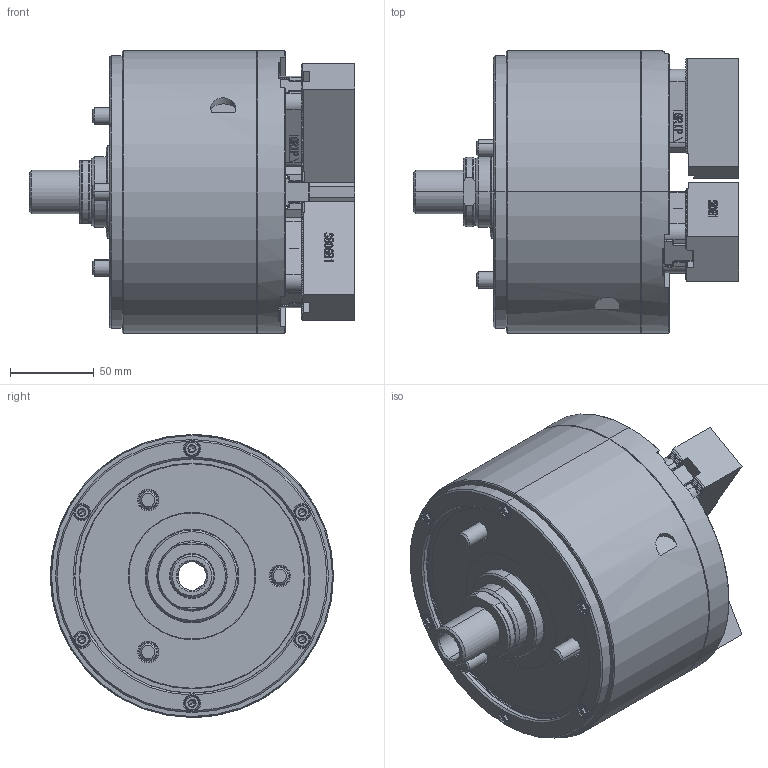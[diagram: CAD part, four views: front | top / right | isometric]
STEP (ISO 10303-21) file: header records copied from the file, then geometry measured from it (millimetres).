
FILE_DESCRIPTION (( 'STEP AP214' ), '1' );
FILE_NAME ('DL206_UC.STEP', '2019-11-07T00:22:32', ( '' ), ( '' ), 'SwSTEP 2.0', 'SolidWorks 2017', '' );
FILE_SCHEMA (( 'AUTOMOTIVE_DESIGN' ));
Length unit declared in the file: millimetre
Products named in the file (5): 結合_OD; 0030110025; 61P385747; 61P456464; DL206_UC
Assembly tree (13 placements, depth 2):
  DL206_UC
    61P456464  x3
    61P385747  x3
    0030110025  x6
    結合_OD
Bounding box: 194.43 x 169 x 169 mm (x, y, z)
Volume: 2467517.5 mm3; surface area: 233196.3 mm2
Topology: 13 solids, 13 shells, 5755 faces, 15637 edges, 10183 vertices
Faces by surface type: plane 3617, bspline 1118, cylinder 607, cone 377, torus 32, sphere 4
Entity records: 180520 total; most frequent: CARTESIAN_POINT 69104, ORIENTED_EDGE 25488, DIRECTION 18878, EDGE_CURVE 12744, VECTOR 8928, LINE 8928, VERTEX_POINT 8333, EDGE_LOOP 5027
